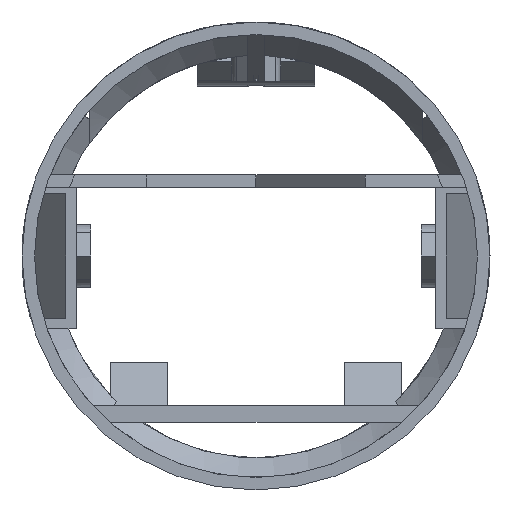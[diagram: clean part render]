
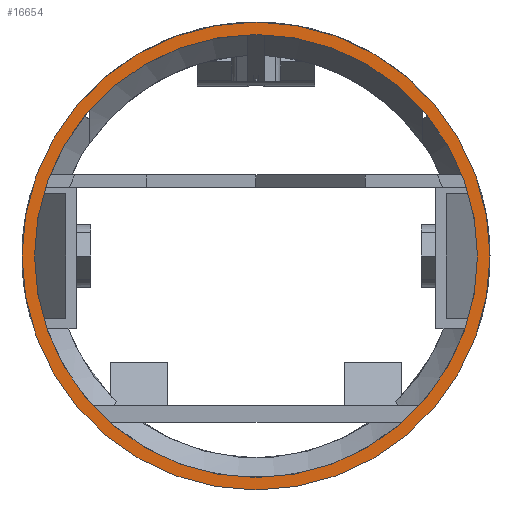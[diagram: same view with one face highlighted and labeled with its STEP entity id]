
A CAD part, left-side view. The second image highlights one B-rep face of the part: STEP entity #16654.
In plain terms, the highlighted planar face has unit normal (-1, 0, 0).
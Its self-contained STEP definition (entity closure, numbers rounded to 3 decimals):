
#22 = VERTEX_POINT('',#23);
#23 = CARTESIAN_POINT('',(50.,21.3,0.));
#32 = CYLINDRICAL_SURFACE('',#33,21.3);
#33 = AXIS2_PLACEMENT_3D('',#34,#35,#36);
#34 = CARTESIAN_POINT('',(47.,0.,0.));
#35 = DIRECTION('',(1.,0.,0.));
#36 = DIRECTION('',(-0.,1.,0.));
#51 = EDGE_CURVE('',#22,#22,#52,.T.);
#52 = SURFACE_CURVE('',#53,(#58,#65),.PCURVE_S1.);
#53 = CIRCLE('',#54,21.3);
#54 = AXIS2_PLACEMENT_3D('',#55,#56,#57);
#55 = CARTESIAN_POINT('',(50.,0.,0.));
#56 = DIRECTION('',(1.,0.,0.));
#57 = DIRECTION('',(-0.,1.,0.));
#58 = PCURVE('',#32,#59);
#59 = DEFINITIONAL_REPRESENTATION('',(#60),#64);
#60 = LINE('',#61,#62);
#61 = CARTESIAN_POINT('',(0.,3.));
#62 = VECTOR('',#63,1.);
#63 = DIRECTION('',(1.,0.));
#64 = ( GEOMETRIC_REPRESENTATION_CONTEXT(2) 
PARAMETRIC_REPRESENTATION_CONTEXT() REPRESENTATION_CONTEXT('2D SPACE',''
  ) );
#65 = PCURVE('',#66,#71);
#66 = PLANE('',#67);
#67 = AXIS2_PLACEMENT_3D('',#68,#69,#70);
#68 = CARTESIAN_POINT('',(50.,-30.,-30.));
#69 = DIRECTION('',(1.,0.,-0.));
#70 = DIRECTION('',(0.,0.,1.));
#71 = DEFINITIONAL_REPRESENTATION('',(#72),#76);
#72 = CIRCLE('',#73,21.3);
#73 = AXIS2_PLACEMENT_2D('',#74,#75);
#74 = CARTESIAN_POINT('',(30.,-30.));
#75 = DIRECTION('',(0.,-1.));
#76 = ( GEOMETRIC_REPRESENTATION_CONTEXT(2) 
PARAMETRIC_REPRESENTATION_CONTEXT() REPRESENTATION_CONTEXT('2D SPACE',''
  ) );
#2968 = CYLINDRICAL_SURFACE('',#2969,22.5);
#2969 = AXIS2_PLACEMENT_3D('',#2970,#2971,#2972);
#2970 = CARTESIAN_POINT('',(47.,0.,0.));
#2971 = DIRECTION('',(1.,0.,0.));
#2972 = DIRECTION('',(-0.,1.,0.));
#3005 = EDGE_CURVE('',#3006,#3006,#3008,.T.);
#3006 = VERTEX_POINT('',#3007);
#3007 = CARTESIAN_POINT('',(50.,22.5,0.));
#3008 = SURFACE_CURVE('',#3009,(#3014,#3021),.PCURVE_S1.);
#3009 = CIRCLE('',#3010,22.5);
#3010 = AXIS2_PLACEMENT_3D('',#3011,#3012,#3013);
#3011 = CARTESIAN_POINT('',(50.,0.,0.));
#3012 = DIRECTION('',(1.,0.,0.));
#3013 = DIRECTION('',(-0.,1.,0.));
#3014 = PCURVE('',#2968,#3015);
#3015 = DEFINITIONAL_REPRESENTATION('',(#3016),#3020);
#3016 = LINE('',#3017,#3018);
#3017 = CARTESIAN_POINT('',(0.,3.));
#3018 = VECTOR('',#3019,1.);
#3019 = DIRECTION('',(1.,0.));
#3020 = ( GEOMETRIC_REPRESENTATION_CONTEXT(2) 
PARAMETRIC_REPRESENTATION_CONTEXT() REPRESENTATION_CONTEXT('2D SPACE',''
  ) );
#3021 = PCURVE('',#66,#3022);
#3022 = DEFINITIONAL_REPRESENTATION('',(#3023),#3027);
#3023 = CIRCLE('',#3024,22.5);
#3024 = AXIS2_PLACEMENT_2D('',#3025,#3026);
#3025 = CARTESIAN_POINT('',(30.,-30.));
#3026 = DIRECTION('',(0.,-1.));
#3027 = ( GEOMETRIC_REPRESENTATION_CONTEXT(2) 
PARAMETRIC_REPRESENTATION_CONTEXT() REPRESENTATION_CONTEXT('2D SPACE',''
  ) );
#16654 = ADVANCED_FACE('',(#16655,#16658),#66,.F.);
#16655 = FACE_BOUND('',#16656,.F.);
#16656 = EDGE_LOOP('',(#16657));
#16657 = ORIENTED_EDGE('',*,*,#3005,.T.);
#16658 = FACE_BOUND('',#16659,.F.);
#16659 = EDGE_LOOP('',(#16660));
#16660 = ORIENTED_EDGE('',*,*,#51,.F.);
